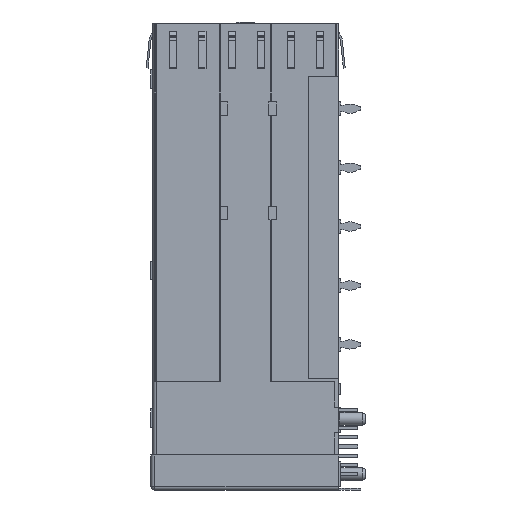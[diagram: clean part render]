
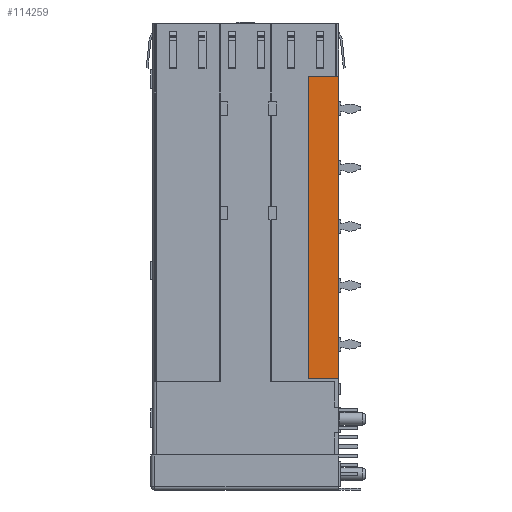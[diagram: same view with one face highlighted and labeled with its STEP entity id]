
A CAD part, left-side view. The second image highlights one B-rep face of the part: STEP entity #114259.
In plain terms, the highlighted planar face has unit normal (-1, 0, 0).
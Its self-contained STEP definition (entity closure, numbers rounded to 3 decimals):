
#544 = CARTESIAN_POINT ( 'NONE',  ( -57.375, 4.1, -48.1 ) ) ;
#1874 = DIRECTION ( 'NONE',  ( 0., 1., 0. ) ) ;
#3162 = VECTOR ( 'NONE', #1874, 1000. ) ;
#8981 = CARTESIAN_POINT ( 'NONE',  ( -57.375, 0., -7.1 ) ) ;
#13599 = CARTESIAN_POINT ( 'NONE',  ( -57.375, 4.1, -7.1 ) ) ;
#14900 = EDGE_CURVE ( 'NONE', #137342, #97065, #32325, .T. ) ;
#23661 = CARTESIAN_POINT ( 'NONE',  ( -57.375, 0., -48.1 ) ) ;
#24397 = VECTOR ( 'NONE', #131381, 1000. ) ;
#32325 = LINE ( 'NONE', #122324, #3162 ) ;
#39375 = VECTOR ( 'NONE', #40364, 1000. ) ;
#40364 = DIRECTION ( 'NONE',  ( 0., 0., 1. ) ) ;
#44102 = VECTOR ( 'NONE', #65804, 1000. ) ;
#44114 = CARTESIAN_POINT ( 'NONE',  ( -57.375, 0., -7.1 ) ) ;
#60384 = PLANE ( 'NONE',  #96453 ) ;
#60620 = LINE ( 'NONE', #8981, #24397 ) ;
#65230 = LINE ( 'NONE', #107434, #39375 ) ;
#65804 = DIRECTION ( 'NONE',  ( 0., -1., 0. ) ) ;
#68957 = ORIENTED_EDGE ( 'NONE', *, *, #87219, .F. ) ;
#69579 = DIRECTION ( 'NONE',  ( 1., 0., 0. ) ) ;
#69915 = ORIENTED_EDGE ( 'NONE', *, *, #14900, .F. ) ;
#69977 = LINE ( 'NONE', #44114, #44102 ) ;
#71654 = FACE_OUTER_BOUND ( 'NONE', #80388, .T. ) ;
#76641 = EDGE_CURVE ( 'NONE', #92483, #126229, #69977, .T. ) ;
#80388 = EDGE_LOOP ( 'NONE', ( #116425, #85902, #69915, #68957 ) ) ;
#80730 = DIRECTION ( 'NONE',  ( 0., 0., 1. ) ) ;
#85902 = ORIENTED_EDGE ( 'NONE', *, *, #126622, .F. ) ;
#87219 = EDGE_CURVE ( 'NONE', #126229, #137342, #60620, .T. ) ;
#92483 = VERTEX_POINT ( 'NONE', #13599 ) ;
#96453 = AXIS2_PLACEMENT_3D ( 'NONE', #113990, #69579, #80730 ) ;
#97065 = VERTEX_POINT ( 'NONE', #544 ) ;
#98389 = CARTESIAN_POINT ( 'NONE',  ( -57.375, 0., -7.1 ) ) ;
#107434 = CARTESIAN_POINT ( 'NONE',  ( -57.375, 4.1, -7.1 ) ) ;
#113990 = CARTESIAN_POINT ( 'NONE',  ( -57.375, 0., 0. ) ) ;
#114259 = ADVANCED_FACE ( 'NONE', ( #71654 ), #60384, .F. ) ;
#116425 = ORIENTED_EDGE ( 'NONE', *, *, #76641, .F. ) ;
#122324 = CARTESIAN_POINT ( 'NONE',  ( -57.375, 0., -48.1 ) ) ;
#126229 = VERTEX_POINT ( 'NONE', #98389 ) ;
#126622 = EDGE_CURVE ( 'NONE', #97065, #92483, #65230, .T. ) ;
#131381 = DIRECTION ( 'NONE',  ( 0., 0., -1. ) ) ;
#137342 = VERTEX_POINT ( 'NONE', #23661 ) ;
